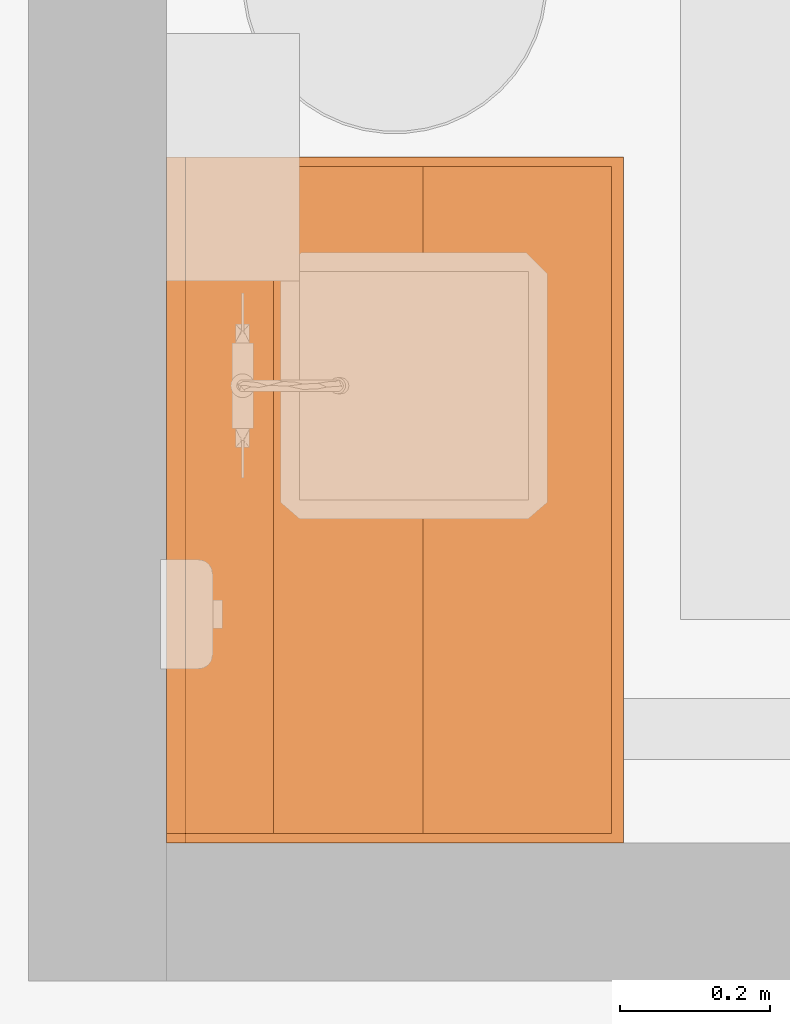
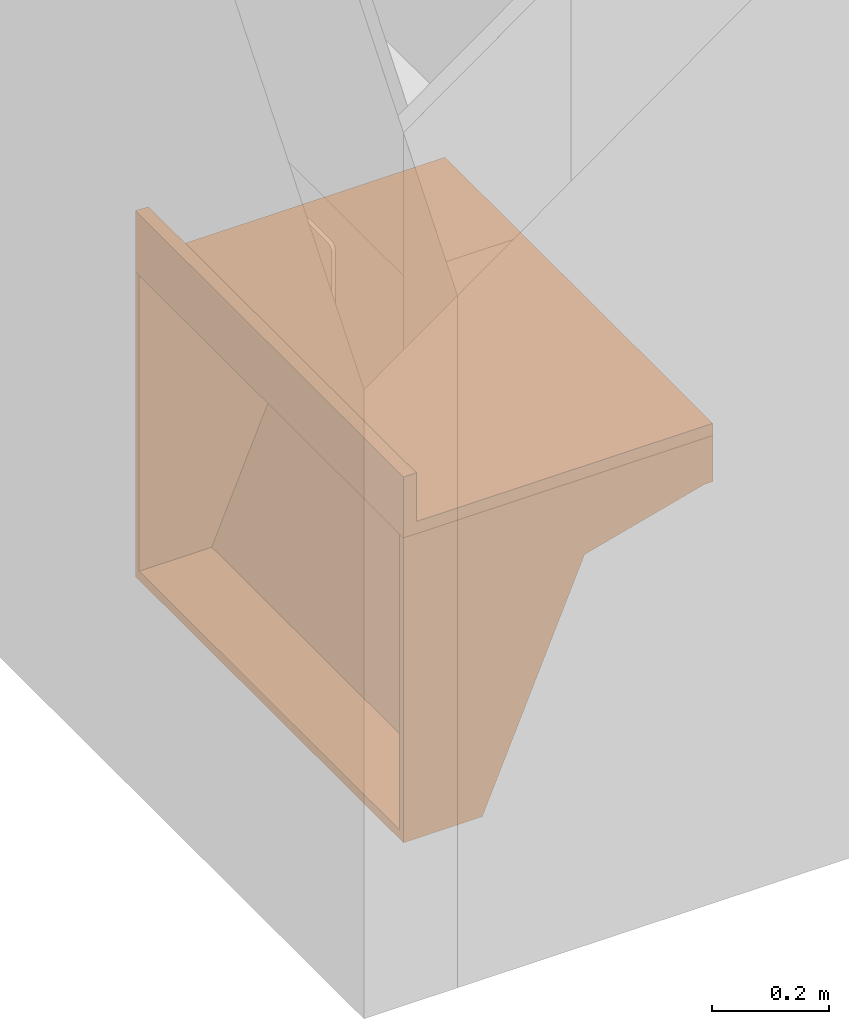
# One storey, part 39 of 142: 2 proxies.
"""IFC2X3 building model written with IfcOpenShell, lengths in feet."""

from ifc_helpers import new_model, entity, si_unit, converted_unit, derived_unit, direction, frame, frame_2d, origin, origin_2d_with_axis, place, context, subcontext, project, spatial, polyline, rectangle, outline, extrude, source, transform, mapped, type_object, type_shapes, element, save


model = new_model("IFC2X3")

# Units and contexts
model_context = context("Model", 3, precision=0.0001, world=origin(), true_north=direction((6.12303176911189e-17, 1.0)))
body_context = subcontext(model_context, "Body", "Model", "MODEL_VIEW")
ifc_project = project(units=[converted_unit("LENGTHUNIT", "FOOT", entity("IfcRatioMeasure", 0.3048), si_unit("LENGTHUNIT", "METRE"), dimensions=[1, 0, 0, 0, 0, 0, 0]), converted_unit("AREAUNIT", "SQUARE FOOT", entity("IfcRatioMeasure", 0.09290304), si_unit("AREAUNIT", "SQUARE_METRE"), dimensions=[2, 0, 0, 0, 0, 0, 0]), converted_unit("VOLUMEUNIT", "CUBIC FOOT", entity("IfcRatioMeasure", 0.028316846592), si_unit("VOLUMEUNIT", "CUBIC_METRE"), dimensions=[3, 0, 0, 0, 0, 0, 0]), converted_unit("PLANEANGLEUNIT", "DEGREE", entity("IfcRatioMeasure", 0.0174532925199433), si_unit("PLANEANGLEUNIT", "RADIAN"), dimensions=[0, 0, 0, 0, 0, 0, 0]), si_unit("MASSUNIT", "GRAM", prefix="KILO"), derived_unit("MASSDENSITYUNIT", [(si_unit("MASSUNIT", "GRAM", prefix="KILO"), 1), (si_unit("LENGTHUNIT", "METRE"), -3)]), si_unit("TIMEUNIT", "SECOND"), si_unit("FREQUENCYUNIT", "HERTZ"), si_unit("THERMODYNAMICTEMPERATUREUNIT", "DEGREE_CELSIUS"), derived_unit("THERMALTRANSMITTANCEUNIT", [(si_unit("MASSUNIT", "GRAM", prefix="KILO"), 1), (si_unit("THERMODYNAMICTEMPERATUREUNIT", "KELVIN"), -1), (si_unit("TIMEUNIT", "SECOND"), -3)]), derived_unit("VOLUMETRICFLOWRATEUNIT", [(si_unit("LENGTHUNIT", "METRE"), 3), (si_unit("TIMEUNIT", "SECOND"), -1)]), si_unit("ELECTRICCURRENTUNIT", "AMPERE"), si_unit("ELECTRICVOLTAGEUNIT", "VOLT"), si_unit("POWERUNIT", "WATT"), si_unit("FORCEUNIT", "NEWTON"), si_unit("ILLUMINANCEUNIT", "LUX"), si_unit("LUMINOUSFLUXUNIT", "LUMEN"), si_unit("LUMINOUSINTENSITYUNIT", "CANDELA"), derived_unit("USERDEFINED", [(si_unit("MASSUNIT", "GRAM", prefix="KILO"), -1), (si_unit("LENGTHUNIT", "METRE"), -2), (si_unit("TIMEUNIT", "SECOND"), 3), (si_unit("LUMINOUSFLUXUNIT", "LUMEN"), 1)]), derived_unit("LINEARVELOCITYUNIT", [(si_unit("LENGTHUNIT", "METRE"), 1), (si_unit("TIMEUNIT", "SECOND"), -1)]), si_unit("PRESSUREUNIT", "PASCAL"), derived_unit("USERDEFINED", [(si_unit("LENGTHUNIT", "METRE"), -2), (si_unit("MASSUNIT", "GRAM", prefix="KILO"), 1), (si_unit("TIMEUNIT", "SECOND"), -2)])], contexts=[model_context])

# Site, building, storey, space
site_placement = place(None, origin())
site = spatial("IfcSite", under=ifc_project, at=site_placement, Name="Default", CompositionType="ELEMENT")
building_placement = place(site_placement, origin())
building = spatial("IfcBuilding", under=site, at=building_placement, Name="OUTPATIENT / PACT CLINIC (Ch. 265)", CompositionType="ELEMENT")
storey_placement = place(building_placement, origin())
storey = spatial("IfcBuildingStorey", under=building, at=storey_placement, Name="LEVEL 1", CompositionType="ELEMENT", Elevation=0.0)
space_placement = place(storey_placement, origin())
space = spatial("IfcSpace", under=storey, at=space_placement, Name="EXPA1", CompositionType="ELEMENT", InteriorOrExteriorSpace="INTERNAL")

# Proxies
building_element_proxy_type_1 = type_object("IfcBuildingElementProxyType", Name="CT020 - Countertop, Solid Surface - No Opening (1)", PredefinedType="NOTDEFINED")
shared_shape_1 = source(origin(), body_context, "Body", "SweptSolid", [
    extrude(rectangle(XDim=3.0, YDim=0.083333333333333, at=frame_2d((0.0, -5.55111512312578e-17), x_axis=(1.0, 0.0))), frame((0.0, 0.958333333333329, 0.0833333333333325)), (0.0, 0.0, 1.0), 0.333333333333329),
    extrude(rectangle(XDim=3.0, YDim=2.0, at=origin_2d_with_axis()), origin(), (0.0, 0.0, 1.0), 0.0833333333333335),
])
type_shapes(building_element_proxy_type_1, [shared_shape_1])
proxy_1_placement = place(space_placement, frame((436.254976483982, -902.128851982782, 2.70833333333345), z_axis=(0.0, 0.0, 1.0), x_axis=(0.0, 1.0, 0.0)))
element("IfcBuildingElementProxy", 1, at=proxy_1_placement, inside=space, type_object=building_element_proxy_type_1, Name="CT020 - Countertop, Solid Surface - No Opening (1):CT020 - Countertop, Solid Surface - No Opening (1)", ObjectType="CT020 - Countertop, Solid Surface - No Opening (1)", context=body_context, shape_type="MappedRepresentation", body=[
    mapped(shared_shape_1, transform((0.0, 0.0, 0.0), scale=1.0)),
])
building_element_proxy_type_2 = type_object("IfcBuildingElementProxyType", Name="24\"H x 24\"D x 36\"W", PredefinedType="NOTDEFINED")
shared_shape_2 = source(origin(), body_context, "Body", "SweptSolid", [
    extrude(outline(polyline([(-0.750382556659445, 0.0187614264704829), (0.944711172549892, 0.0187614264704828), (1.14381332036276, 0.488200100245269), (1.08627459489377, 0.51260389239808), (0.903330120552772, 0.081261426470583), (-0.774516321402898, 0.0812614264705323), (-1.30874051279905, -0.586799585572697), (-1.24448981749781, -0.614050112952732), (-0.750382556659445, 0.0187614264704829)])), frame((-1.45833333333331, -1.19293570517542, 1.67489402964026), z_axis=(1.0, 0.0, 0.0), x_axis=(0.0, 0.390460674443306, -0.920619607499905)), (0.0, 0.0, 1.0), 2.91666666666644),
    extrude(outline(polyline([(-1.24925608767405, -0.929380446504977), (0.834077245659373, -0.929380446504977), (0.834077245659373, 1.01791116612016), (0.519077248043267, 1.01791116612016), (0.311280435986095, 0.242403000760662), (-1.24925608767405, -0.41946443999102), (-1.24925608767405, -0.929380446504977)])), frame((-1.49999999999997, -1.2262554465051, 2.06175608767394), z_axis=(1.0, 0.0, 0.0), x_axis=(0.0, 0.0, 1.0)), (0.0, 0.0, 1.0), 0.0416666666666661),
    extrude(rectangle(XDim=3.0, YDim=0.0527083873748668, at=frame_2d((0.0, -2.22044604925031e-16), x_axis=(1.0, 0.0))), frame((0.0, -2.27052080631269, 2.58083333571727), z_axis=(0.0, 0.0, 1.0), x_axis=(-1.0, 0.0, 0.0)), (0.0, 0.0, 1.0), 0.314999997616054),
    extrude(outline(polyline([(-1.24925608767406, -0.929380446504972), (0.834077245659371, -0.929380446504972), (0.834077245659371, 1.01791116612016), (0.519077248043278, 1.01791116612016), (0.311280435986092, 0.24240300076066), (-1.24925608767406, -0.419464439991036), (-1.24925608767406, -0.929380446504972)])), frame((1.45833333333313, -1.22625544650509, 2.06175608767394), z_axis=(1.0, 0.0, 0.0), x_axis=(0.0, 0.0, 1.0)), (0.0, 0.0, 1.0), 0.0416666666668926),
])
type_shapes(building_element_proxy_type_2, [shared_shape_2])
proxy_2_placement = place(space_placement, frame((434.958101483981, -902.128851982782, -0.187499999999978), z_axis=(0.0, 0.0, 1.0), x_axis=(0.0, 1.0, 0.0)))
element("IfcBuildingElementProxy", 2, at=proxy_2_placement, inside=space, type_object=building_element_proxy_type_2, Name="Z1018 - Cabinet, ADA Sink Support:24\"H x 24\"D x 36\"W", ObjectType="24\"H x 24\"D x 36\"W", context=body_context, shape_type="MappedRepresentation", body=[
    mapped(shared_shape_2, transform((0.0, 0.0, 0.0), scale=1.0)),
])

save(model, "model.ifc")
